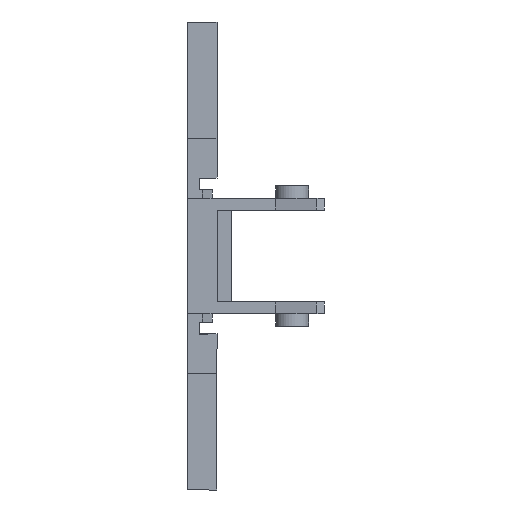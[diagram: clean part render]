
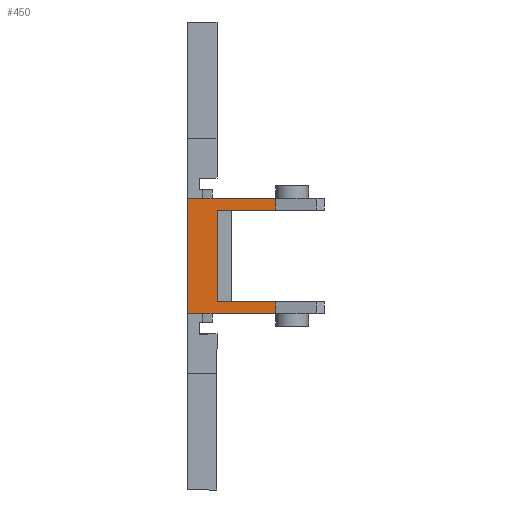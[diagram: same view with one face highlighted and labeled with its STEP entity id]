
A CAD part, front view. The second image highlights one B-rep face of the part: STEP entity #450.
In plain terms, the highlighted planar face has unit normal (0, -1, 0).
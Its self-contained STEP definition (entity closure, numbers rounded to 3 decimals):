
#11 = VECTOR ( 'NONE', #406, 1000. ) ;
#30 = DIRECTION ( 'NONE',  ( 0., 0., -1. ) ) ;
#60 = LINE ( 'NONE', #2253, #1278 ) ;
#75 = VERTEX_POINT ( 'NONE', #1884 ) ;
#139 = EDGE_CURVE ( 'NONE', #249, #494, #1937, .T. ) ;
#249 = VERTEX_POINT ( 'NONE', #1952 ) ;
#406 = DIRECTION ( 'NONE',  ( 0., 0., -1. ) ) ;
#426 = VECTOR ( 'NONE', #2077, 1000. ) ;
#429 = LINE ( 'NONE', #1447, #1274 ) ;
#450 = ADVANCED_FACE ( 'NONE', ( #3387 ), #509, .T. ) ;
#494 = VERTEX_POINT ( 'NONE', #766 ) ;
#509 = PLANE ( 'NONE',  #2151 ) ;
#559 = CARTESIAN_POINT ( 'NONE',  ( -0.5, -25.55, -4.7 ) ) ;
#579 = CARTESIAN_POINT ( 'NONE',  ( -3.5, -25.55, 15.37 ) ) ;
#584 = LINE ( 'NONE', #3148, #426 ) ;
#616 = EDGE_LOOP ( 'NONE', ( #1053, #1263, #2273, #2198, #1100, #1698, #1093, #2783 ) ) ;
#766 = CARTESIAN_POINT ( 'NONE',  ( -3.5, -25.55, -5.9 ) ) ;
#977 = CARTESIAN_POINT ( 'NONE',  ( 5.523, -25.55, 5.9 ) ) ;
#987 = VERTEX_POINT ( 'NONE', #3360 ) ;
#997 = DIRECTION ( 'NONE',  ( -1., 0., 0. ) ) ;
#1053 = ORIENTED_EDGE ( 'NONE', *, *, #2832, .F. ) ;
#1093 = ORIENTED_EDGE ( 'NONE', *, *, #2973, .F. ) ;
#1100 = ORIENTED_EDGE ( 'NONE', *, *, #139, .T. ) ;
#1172 = VERTEX_POINT ( 'NONE', #559 ) ;
#1242 = VECTOR ( 'NONE', #30, 1000. ) ;
#1263 = ORIENTED_EDGE ( 'NONE', *, *, #2173, .T. ) ;
#1274 = VECTOR ( 'NONE', #2220, 1000. ) ;
#1278 = VECTOR ( 'NONE', #2475, 1000. ) ;
#1366 = VERTEX_POINT ( 'NONE', #1634 ) ;
#1391 = VECTOR ( 'NONE', #2168, 1000. ) ;
#1447 = CARTESIAN_POINT ( 'NONE',  ( 10.5, -25.55, 4.7 ) ) ;
#1473 = LINE ( 'NONE', #2369, #2056 ) ;
#1596 = LINE ( 'NONE', #3181, #11 ) ;
#1633 = VERTEX_POINT ( 'NONE', #977 ) ;
#1634 = CARTESIAN_POINT ( 'NONE',  ( 5.523, -25.55, -4.7 ) ) ;
#1637 = CARTESIAN_POINT ( 'NONE',  ( -2., -25.55, -5.9 ) ) ;
#1698 = ORIENTED_EDGE ( 'NONE', *, *, #2931, .T. ) ;
#1759 = CARTESIAN_POINT ( 'NONE',  ( 10.5, -25.55, -5.9 ) ) ;
#1807 = LINE ( 'NONE', #2196, #3013 ) ;
#1884 = CARTESIAN_POINT ( 'NONE',  ( 5.523, -25.55, 4.7 ) ) ;
#1937 = LINE ( 'NONE', #579, #1242 ) ;
#1952 = CARTESIAN_POINT ( 'NONE',  ( -3.5, -25.55, 5.9 ) ) ;
#2019 = EDGE_CURVE ( 'NONE', #1633, #249, #1807, .T. ) ;
#2056 = VECTOR ( 'NONE', #3117, 1000. ) ;
#2067 = EDGE_CURVE ( 'NONE', #1172, #1366, #60, .T. ) ;
#2077 = DIRECTION ( 'NONE',  ( 0., 0., -1. ) ) ;
#2151 = AXIS2_PLACEMENT_3D ( 'NONE', #1759, #2325, #997 ) ;
#2160 = DIRECTION ( 'NONE',  ( -1., 0., 0. ) ) ;
#2168 = DIRECTION ( 'NONE',  ( 1., 0., 0. ) ) ;
#2173 = EDGE_CURVE ( 'NONE', #2358, #75, #429, .T. ) ;
#2196 = CARTESIAN_POINT ( 'NONE',  ( 10.5, -25.55, 5.9 ) ) ;
#2198 = ORIENTED_EDGE ( 'NONE', *, *, #2019, .T. ) ;
#2220 = DIRECTION ( 'NONE',  ( 1., 0., 0. ) ) ;
#2253 = CARTESIAN_POINT ( 'NONE',  ( 10.5, -25.55, -4.7 ) ) ;
#2273 = ORIENTED_EDGE ( 'NONE', *, *, #2789, .F. ) ;
#2325 = DIRECTION ( 'NONE',  ( 0., -1., 0. ) ) ;
#2358 = VERTEX_POINT ( 'NONE', #2455 ) ;
#2369 = CARTESIAN_POINT ( 'NONE',  ( 5.523, -25.55, 67.733 ) ) ;
#2455 = CARTESIAN_POINT ( 'NONE',  ( -0.5, -25.55, 4.7 ) ) ;
#2475 = DIRECTION ( 'NONE',  ( 1., 0., 0. ) ) ;
#2783 = ORIENTED_EDGE ( 'NONE', *, *, #2067, .F. ) ;
#2789 = EDGE_CURVE ( 'NONE', #1633, #75, #1473, .T. ) ;
#2832 = EDGE_CURVE ( 'NONE', #2358, #1172, #584, .T. ) ;
#2931 = EDGE_CURVE ( 'NONE', #494, #987, #3378, .T. ) ;
#2973 = EDGE_CURVE ( 'NONE', #1366, #987, #1596, .T. ) ;
#3013 = VECTOR ( 'NONE', #2160, 1000. ) ;
#3117 = DIRECTION ( 'NONE',  ( 0., 0., -1. ) ) ;
#3148 = CARTESIAN_POINT ( 'NONE',  ( -0.5, -25.55, -5.9 ) ) ;
#3181 = CARTESIAN_POINT ( 'NONE',  ( 5.523, -25.55, 67.733 ) ) ;
#3360 = CARTESIAN_POINT ( 'NONE',  ( 5.523, -25.55, -5.9 ) ) ;
#3378 = LINE ( 'NONE', #1637, #1391 ) ;
#3387 = FACE_OUTER_BOUND ( 'NONE', #616, .T. ) ;
